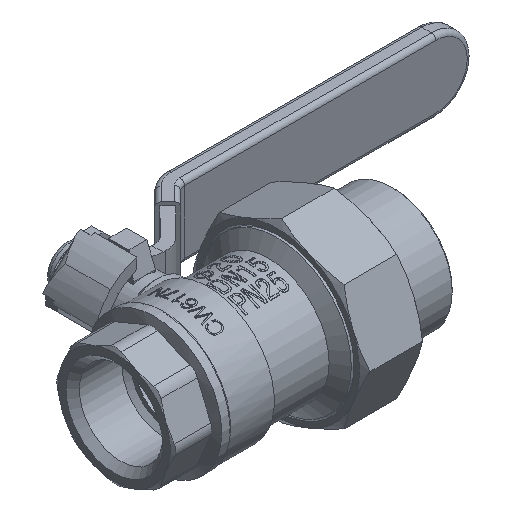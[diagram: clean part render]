
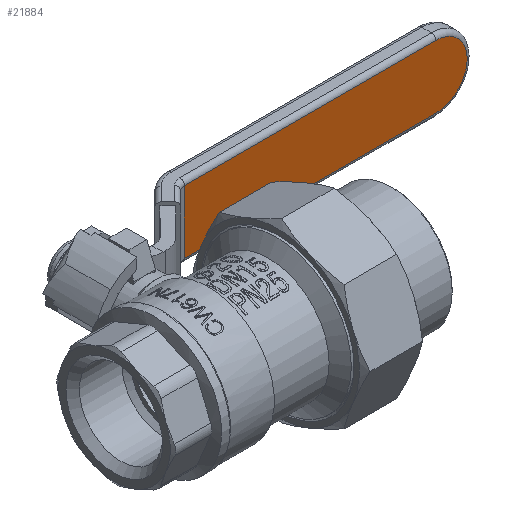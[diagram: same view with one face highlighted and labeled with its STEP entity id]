
A CAD part, isometric view. The second image highlights one B-rep face of the part: STEP entity #21884.
In plain terms, the highlighted planar face has unit normal (0, -1, 0).
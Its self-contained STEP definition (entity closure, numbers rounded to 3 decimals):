
#1277=PLANE('',#23079);
#2400=FACE_OUTER_BOUND('',#3713,.T.);
#3713=EDGE_LOOP('',(#19902,#19903,#19904,#19905));
#4167=CIRCLE('',#23044,7.05);
#6014=LINE('',#41687,#7875);
#6016=LINE('',#41699,#7877);
#6031=LINE('',#41763,#7892);
#7875=VECTOR('',#27024,10.);
#7877=VECTOR('',#27038,10.);
#7892=VECTOR('',#27119,10.);
#10761=VERTEX_POINT('',#41677);
#10763=VERTEX_POINT('',#41683);
#10765=VERTEX_POINT('',#41689);
#10767=VERTEX_POINT('',#41695);
#13849=EDGE_CURVE('',#10761,#10763,#6014,.T.);
#13852=EDGE_CURVE('',#10763,#10765,#4167,.T.);
#13855=EDGE_CURVE('',#10765,#10767,#6016,.T.);
#13887=EDGE_CURVE('',#10767,#10761,#6031,.T.);
#19902=ORIENTED_EDGE('',*,*,#13849,.F.);
#19903=ORIENTED_EDGE('',*,*,#13887,.F.);
#19904=ORIENTED_EDGE('',*,*,#13855,.F.);
#19905=ORIENTED_EDGE('',*,*,#13852,.F.);
#21884=ADVANCED_FACE('',(#2400),#1277,.T.);
#23044=AXIS2_PLACEMENT_3D('',#41693,#27031,#27032);
#23079=AXIS2_PLACEMENT_3D('',#41762,#27117,#27118);
#27024=DIRECTION('',(1.,0.,0.));
#27031=DIRECTION('center_axis',(0.,1.,0.));
#27032=DIRECTION('ref_axis',(1.,0.,0.));
#27038=DIRECTION('',(-1.,0.,0.));
#27117=DIRECTION('center_axis',(0.,-1.,0.));
#27118=DIRECTION('ref_axis',(-1.,0.,0.));
#27119=DIRECTION('',(0.,0.,1.));
#41677=CARTESIAN_POINT('',(28.601,37.192,-0.2));
#41683=CARTESIAN_POINT('',(84.75,37.192,-0.2));
#41687=CARTESIAN_POINT('',(74.892,37.192,-0.2));
#41689=CARTESIAN_POINT('',(84.75,37.192,-14.3));
#41693=CARTESIAN_POINT('Origin',(84.75,37.192,-7.25));
#41695=CARTESIAN_POINT('',(28.601,37.192,-14.3));
#41699=CARTESIAN_POINT('',(74.892,37.192,-14.3));
#41762=CARTESIAN_POINT('Origin',(92.8,37.192,-7.25));
#41763=CARTESIAN_POINT('',(28.601,37.192,-7.25));
